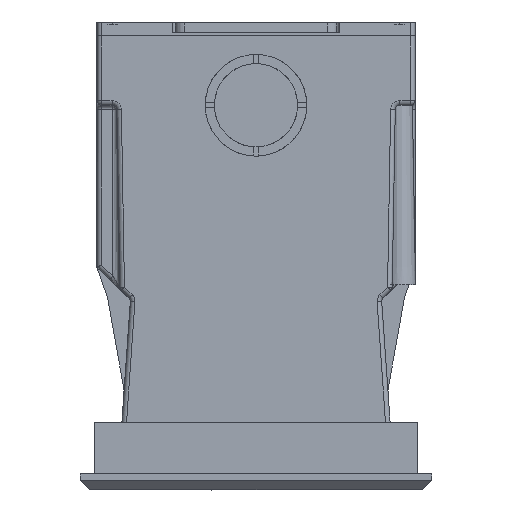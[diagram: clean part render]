
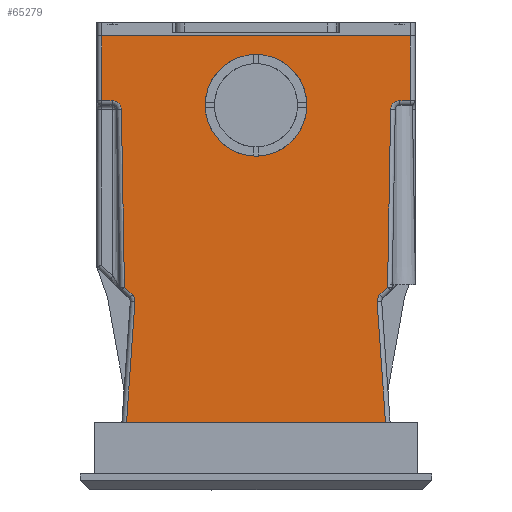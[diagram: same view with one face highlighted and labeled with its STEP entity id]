
A CAD part, left-side view. The second image highlights one B-rep face of the part: STEP entity #65279.
In plain terms, the highlighted planar face has unit normal (0, 1, 0) by its records, which use the part's own axes.
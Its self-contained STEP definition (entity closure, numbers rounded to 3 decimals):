
#53317=DIRECTION('',(-0.07,0.,
-0.998));
#53318=VECTOR('',#53317,26.028);
#53319=CARTESIAN_POINT('',(-26.182,-62.5,-12.835));
#53320=LINE('',#53319,#53318);
#53321=DIRECTION('',(-0.07,0.,0.998));
#53322=VECTOR('',#53321,26.028);
#53323=CARTESIAN_POINT('',(27.998,-62.5,-38.8));
#53324=LINE('',#53323,#53322);
#53325=DIRECTION('',(0.719,0.,0.695));
#53326=VECTOR('',#53325,2.305);
#53327=CARTESIAN_POINT('',(26.788,-62.5,
-11.257));
#53328=LINE('',#53327,#53326);
#53329=DIRECTION('',(0.017,0.,1.));
#53330=VECTOR('',#53329,38.396);
#53331=CARTESIAN_POINT('',(28.446,-62.5,
-9.655));
#53332=LINE('',#53331,#53330);
#53333=CARTESIAN_POINT('',(31.116,-62.5,28.7));
#53334=DIRECTION('',(0.,1.,0.));
#53335=DIRECTION('',(-1.,0.,0.018));
#53336=AXIS2_PLACEMENT_3D('',#53333,#53334,#53335);
#53338=DIRECTION('',(1.,0.,0.));
#53339=VECTOR('',#53338,2.28);
#53340=CARTESIAN_POINT('',(31.116,-62.5,30.7));
#53341=LINE('',#53340,#53339);
#53342=DIRECTION('',(0.,0.,1.));
#53343=VECTOR('',#53342,14.);
#53344=CARTESIAN_POINT('',(33.396,-62.5,30.7));
#53345=LINE('',#53344,#53343);
#53346=DIRECTION('',(-1.,0.,0.));
#53347=VECTOR('',#53346,66.791);
#53348=CARTESIAN_POINT('',(33.396,-62.5,44.7));
#53349=LINE('',#53348,#53347);
#53350=DIRECTION('',(0.,0.,-1.));
#53351=VECTOR('',#53350,14.);
#53352=CARTESIAN_POINT('',(-33.396,-62.5,44.7));
#53353=LINE('',#53352,#53351);
#53354=DIRECTION('',(1.,0.,0.));
#53355=VECTOR('',#53354,2.28);
#53356=CARTESIAN_POINT('',(-33.396,-62.5,30.7));
#53357=LINE('',#53356,#53355);
#53358=CARTESIAN_POINT('',(-31.116,-62.5,28.7));
#53359=DIRECTION('',(0.,1.,0.));
#53360=DIRECTION('',(0.,0.,1.));
#53361=AXIS2_PLACEMENT_3D('',#53358,#53359,#53360);
#53363=DIRECTION('',(0.017,0.,-1.));
#53364=VECTOR('',#53363,38.396);
#53365=CARTESIAN_POINT('',(-29.116,-62.5,
28.735));
#53366=LINE('',#53365,#53364);
#53367=DIRECTION('',(0.719,0.,-0.695));
#53368=VECTOR('',#53367,2.305);
#53369=CARTESIAN_POINT('',(-28.446,-62.5,
-9.655));
#53370=LINE('',#53369,#53368);
#53371=CARTESIAN_POINT('',(0.,-62.5,29.7));
#53372=DIRECTION('',(0.,1.,0.));
#53373=DIRECTION('',(-1.,0.,0.));
#53374=AXIS2_PLACEMENT_3D('',#53371,#53372,#53373);
#53376=CARTESIAN_POINT('',(0.,-62.5,29.7));
#53377=DIRECTION('',(0.,1.,0.));
#53378=DIRECTION('',(0.,0.,1.));
#53379=AXIS2_PLACEMENT_3D('',#53376,#53377,#53378);
#53381=CARTESIAN_POINT('',(0.,-62.5,29.7));
#53382=DIRECTION('',(0.,1.,0.));
#53383=DIRECTION('',(1.,0.,0.));
#53384=AXIS2_PLACEMENT_3D('',#53381,#53382,#53383);
#53386=CARTESIAN_POINT('',(0.,-62.5,29.7));
#53387=DIRECTION('',(0.,1.,0.));
#53388=DIRECTION('',(0.999,0.,-0.045));
#53389=AXIS2_PLACEMENT_3D('',#53386,#53387,#53388);
#53391=CARTESIAN_POINT('',(0.,-62.5,29.7));
#53392=DIRECTION('',(0.,1.,0.));
#53393=DIRECTION('',(0.045,0.,-0.999));
#53394=AXIS2_PLACEMENT_3D('',#53391,#53392,#53393);
#53396=CARTESIAN_POINT('',(0.,-62.5,29.7));
#53397=DIRECTION('',(0.,1.,0.));
#53398=DIRECTION('',(0.,0.,-1.));
#53399=AXIS2_PLACEMENT_3D('',#53396,#53397,#53398);
#53856=CARTESIAN_POINT('',(-26.182,-62.5,-12.835));
#53857=CARTESIAN_POINT('',(-26.17,-62.5,
-12.635));
#53858=CARTESIAN_POINT('',(-26.2,-62.5,
-12.252));
#53859=CARTESIAN_POINT('',(-26.413,-62.5,
-11.697));
#53860=CARTESIAN_POINT('',(-26.647,-62.5,
-11.395));
#53861=CARTESIAN_POINT('',(-26.788,-62.5,
-11.257));
#54386=DIRECTION('',(-1.,0.,0.));
#54387=VECTOR('',#54386,55.995);
#54388=CARTESIAN_POINT('',(27.998,-62.5,-38.8));
#54389=LINE('',#54388,#54387);
#60820=CARTESIAN_POINT('',(26.788,-62.5,
-11.257));
#60821=CARTESIAN_POINT('',(26.646,-62.5,
-11.397));
#60822=CARTESIAN_POINT('',(26.411,-62.5,
-11.702));
#60823=CARTESIAN_POINT('',(26.199,-62.5,
-12.257));
#60824=CARTESIAN_POINT('',(26.17,-62.5,
-12.637));
#60825=CARTESIAN_POINT('',(26.182,-62.5,-12.835));
#62611=CARTESIAN_POINT('',(26.788,-62.5,
-11.257));
#62613=VERTEX_POINT('',#62611);
#62653=CARTESIAN_POINT('',(-31.116,-62.5,
30.7));
#62654=CARTESIAN_POINT('',(-29.116,-62.5,
28.735));
#62655=VERTEX_POINT('',#62653);
#62656=VERTEX_POINT('',#62654);
#62657=CARTESIAN_POINT('',(29.116,-62.5,
28.735));
#62658=CARTESIAN_POINT('',(31.116,-62.5,
30.7));
#62659=VERTEX_POINT('',#62657);
#62660=VERTEX_POINT('',#62658);
#63061=CARTESIAN_POINT('',(-28.446,-62.5,
-9.655));
#63062=CARTESIAN_POINT('',(-26.788,-62.5,
-11.257));
#63063=VERTEX_POINT('',#63061);
#63064=VERTEX_POINT('',#63062);
#63065=VERTEX_POINT('',#60825);
#63395=CARTESIAN_POINT('',(33.396,-62.5,30.7));
#63396=VERTEX_POINT('',#63395);
#63435=CARTESIAN_POINT('',(10.989,-62.5,29.2));
#63436=CARTESIAN_POINT('',(0.5,-62.5,18.711));
#63437=VERTEX_POINT('',#63435);
#63438=VERTEX_POINT('',#63436);
#63464=CARTESIAN_POINT('',(0.,-62.5,18.7));
#63466=VERTEX_POINT('',#63464);
#63467=CARTESIAN_POINT('',(0.,-62.5,40.7));
#63469=VERTEX_POINT('',#63467);
#63777=CARTESIAN_POINT('',(-26.182,-62.5,
-12.835));
#63779=VERTEX_POINT('',#63777);
#64145=CARTESIAN_POINT('',(28.446,-62.5,
-9.655));
#64146=VERTEX_POINT('',#64145);
#64310=CARTESIAN_POINT('',(11.,-62.5,29.7));
#64311=VERTEX_POINT('',#64310);
#64445=CARTESIAN_POINT('',(-33.396,-62.5,30.7));
#64446=VERTEX_POINT('',#64445);
#64727=CARTESIAN_POINT('',(27.998,-62.5,-38.8));
#64728=CARTESIAN_POINT('',(-27.998,-62.5,-38.8));
#64729=VERTEX_POINT('',#64727);
#64730=VERTEX_POINT('',#64728);
#64735=CARTESIAN_POINT('',(-11.,-62.5,29.7));
#64736=VERTEX_POINT('',#64735);
#64788=CARTESIAN_POINT('',(33.396,-62.5,44.7));
#64789=VERTEX_POINT('',#64788);
#64811=CARTESIAN_POINT('',(-33.396,-62.5,44.7));
#64812=VERTEX_POINT('',#64811);
#65228=CARTESIAN_POINT('',(62.5,-62.5,66.514));
#65229=DIRECTION('',(0.,1.,0.));
#65230=DIRECTION('',(-0.707,0.,0.707));
#65231=AXIS2_PLACEMENT_3D('',#65228,#65229,#65230);
#65232=PLANE('',#65231);
#65234=ORIENTED_EDGE('',*,*,#65233,.T.);
#65236=ORIENTED_EDGE('',*,*,#65235,.F.);
#65238=ORIENTED_EDGE('',*,*,#65237,.T.);
#65240=ORIENTED_EDGE('',*,*,#65239,.F.);
#65242=ORIENTED_EDGE('',*,*,#65241,.T.);
#65244=ORIENTED_EDGE('',*,*,#65243,.T.);
#65246=ORIENTED_EDGE('',*,*,#65245,.T.);
#65248=ORIENTED_EDGE('',*,*,#65247,.T.);
#65249=ORIENTED_EDGE('',*,*,#65221,.T.);
#65250=ORIENTED_EDGE('',*,*,#64846,.T.);
#65252=ORIENTED_EDGE('',*,*,#65251,.T.);
#65254=ORIENTED_EDGE('',*,*,#65253,.T.);
#65256=ORIENTED_EDGE('',*,*,#65255,.T.);
#65258=ORIENTED_EDGE('',*,*,#65257,.T.);
#65260=ORIENTED_EDGE('',*,*,#65259,.T.);
#65262=ORIENTED_EDGE('',*,*,#65261,.F.);
#65263=EDGE_LOOP('',(#65234,#65236,#65238,#65240,#65242,#65244,#65246,#65248,
#65249,#65250,#65252,#65254,#65256,#65258,#65260,#65262));
#65264=FACE_OUTER_BOUND('',#65263,.F.);
#65266=ORIENTED_EDGE('',*,*,#65265,.T.);
#65268=ORIENTED_EDGE('',*,*,#65267,.T.);
#65270=ORIENTED_EDGE('',*,*,#65269,.T.);
#65272=ORIENTED_EDGE('',*,*,#65271,.T.);
#65274=ORIENTED_EDGE('',*,*,#65273,.T.);
#65276=ORIENTED_EDGE('',*,*,#65275,.T.);
#65277=EDGE_LOOP('',(#65266,#65268,#65270,#65272,#65274,#65276));
#65278=FACE_BOUND('',#65277,.F.);
#53337=CIRCLE('',#53336,2.);
#53362=CIRCLE('',#53361,2.);
#53375=CIRCLE('',#53374,11.);
#53380=CIRCLE('',#53379,11.);
#53385=CIRCLE('',#53384,11.);
#53390=CIRCLE('',#53389,11.);
#53395=CIRCLE('',#53394,11.);
#53400=CIRCLE('',#53399,11.);
#53862=B_SPLINE_CURVE_WITH_KNOTS('',3,(#53856,#53857,#53858,#53859,#53860,
#53861),.UNSPECIFIED.,.F.,.F.,(4,1,1,4),(0.,0.333,
0.667,1.),.UNSPECIFIED.);
#60826=B_SPLINE_CURVE_WITH_KNOTS('',3,(#60820,#60821,#60822,#60823,#60824,
#60825),.UNSPECIFIED.,.F.,.F.,(4,1,1,4),(0.,0.333,
0.667,1.),.UNSPECIFIED.);
#64846=EDGE_CURVE('',#64789,#64812,#53349,.T.);
#65221=EDGE_CURVE('',#63396,#64789,#53345,.T.);
#65233=EDGE_CURVE('',#63779,#64730,#53320,.T.);
#65235=EDGE_CURVE('',#64729,#64730,#54389,.T.);
#65237=EDGE_CURVE('',#64729,#63065,#53324,.T.);
#65239=EDGE_CURVE('',#62613,#63065,#60826,.T.);
#65241=EDGE_CURVE('',#62613,#64146,#53328,.T.);
#65243=EDGE_CURVE('',#64146,#62659,#53332,.T.);
#65245=EDGE_CURVE('',#62659,#62660,#53337,.T.);
#65247=EDGE_CURVE('',#62660,#63396,#53341,.T.);
#65251=EDGE_CURVE('',#64812,#64446,#53353,.T.);
#65253=EDGE_CURVE('',#64446,#62655,#53357,.T.);
#65255=EDGE_CURVE('',#62655,#62656,#53362,.T.);
#65257=EDGE_CURVE('',#62656,#63063,#53366,.T.);
#65259=EDGE_CURVE('',#63063,#63064,#53370,.T.);
#65261=EDGE_CURVE('',#63779,#63064,#53862,.T.);
#65265=EDGE_CURVE('',#64736,#63469,#53375,.T.);
#65267=EDGE_CURVE('',#63469,#64311,#53380,.T.);
#65269=EDGE_CURVE('',#64311,#63437,#53385,.T.);
#65271=EDGE_CURVE('',#63437,#63438,#53390,.T.);
#65273=EDGE_CURVE('',#63438,#63466,#53395,.T.);
#65275=EDGE_CURVE('',#63466,#64736,#53400,.T.);
#65279=ADVANCED_FACE('',(#65264,#65278),#65232,.T.);
